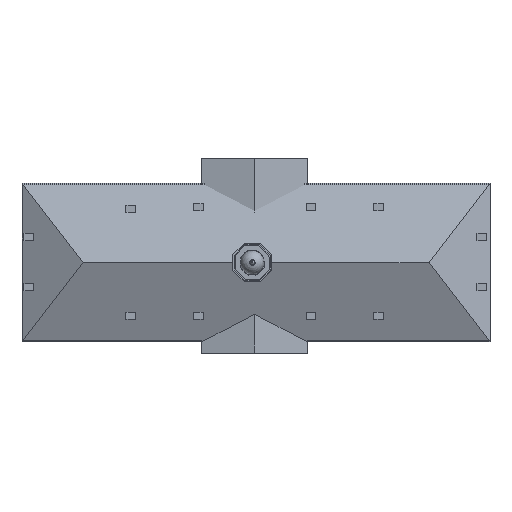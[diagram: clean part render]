
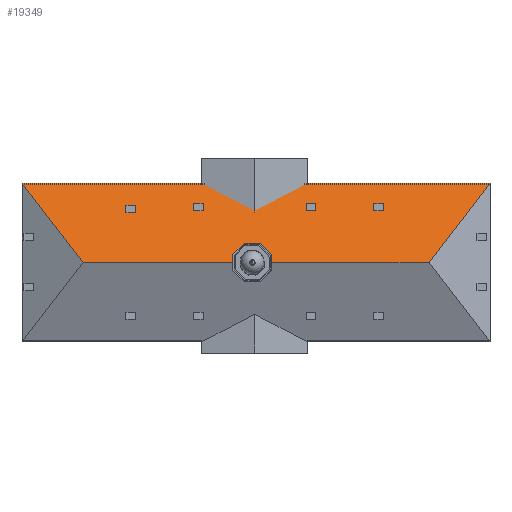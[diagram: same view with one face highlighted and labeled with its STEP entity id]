
A CAD part, top view. The second image highlights one B-rep face of the part: STEP entity #19349.
In plain terms, the highlighted planar face has unit normal (0, 0.379, 0.926).
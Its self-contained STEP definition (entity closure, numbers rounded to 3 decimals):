
#1135=FACE_OUTER_BOUND('',#2367,.T.);
#2367=EDGE_LOOP('',(#16534,#16535,#16536,#16537));
#4383=LINE('',#28690,#7021);
#4493=LINE('',#28883,#7131);
#4698=LINE('',#29312,#7336);
#4717=LINE('',#29357,#7355);
#7021=VECTOR('',#23337,10.);
#7131=VECTOR('',#23509,10.);
#7336=VECTOR('',#24018,1.);
#7355=VECTOR('',#24075,1.);
#9164=VERTEX_POINT('',#28686);
#9165=VERTEX_POINT('',#28688);
#9215=VERTEX_POINT('',#28876);
#9217=VERTEX_POINT('',#28881);
#11444=EDGE_CURVE('',#9165,#9164,#4383,.T.);
#11554=EDGE_CURVE('',#9215,#9217,#4493,.T.);
#11759=EDGE_CURVE('',#9215,#9165,#4698,.T.);
#11778=EDGE_CURVE('',#9164,#9217,#4717,.T.);
#16534=ORIENTED_EDGE('',*,*,#11759,.F.);
#16535=ORIENTED_EDGE('',*,*,#11554,.T.);
#16536=ORIENTED_EDGE('',*,*,#11778,.F.);
#16537=ORIENTED_EDGE('',*,*,#11444,.F.);
#18433=PLANE('',#20326);
#19349=ADVANCED_FACE('',(#1135),#18433,.T.);
#20326=AXIS2_PLACEMENT_3D('',#29356,#24073,#24074);
#23337=DIRECTION('',(-0.581,0.753,-0.308));
#23509=DIRECTION('',(0.58,0.754,-0.308));
#24018=DIRECTION('',(-1.,0.,0.));
#24073=DIRECTION('center_axis',(0.,0.378,0.926));
#24074=DIRECTION('ref_axis',(0.,0.926,-0.378));
#24075=DIRECTION('',(1.,0.,0.));
#28686=CARTESIAN_POINT('',(-165.,62.25,71.5));
#28688=CARTESIAN_POINT('',(-121.623,6.,94.5));
#28690=CARTESIAN_POINT('',(-98.778,-23.625,106.613));
#28876=CARTESIAN_POINT('',(123.784,6.,94.5));
#28881=CARTESIAN_POINT('',(167.,62.25,71.5));
#28883=CARTESIAN_POINT('',(100.498,-24.309,106.893));
#29312=CARTESIAN_POINT('',(274.,6.,94.5));
#29356=CARTESIAN_POINT('Origin',(0.,6.,94.5));
#29357=CARTESIAN_POINT('',(-274.,62.25,71.5));
